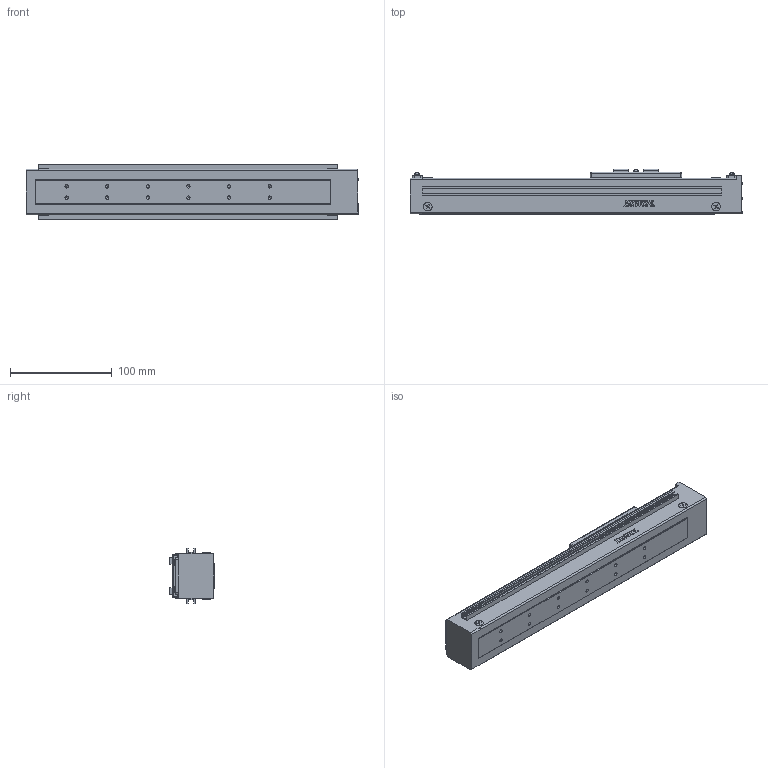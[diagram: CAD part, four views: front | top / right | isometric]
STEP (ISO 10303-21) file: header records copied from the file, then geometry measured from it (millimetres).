
FILE_DESCRIPTION(/* description */ (''),/* implementation_level */ '2;1');
FILE_NAME(/* name */ 'D:\混合母檔20191031\混和母檔\混和母檔\bin\Debug\Download\3D\KE405C-150AF0\KE405C-150AF0.stp',/* time_stamp */ '2019-11-04T13:35:57+08:00',/* author */ ('user'),/* organization */ (''),/* preprocessor_version */ 'ST-DEVELOPER v16.13',/* originating_system */ 'Autodesk Inventor 2018',/* authorisation */ '');
FILE_SCHEMA (('AUTOMOTIVE_DESIGN { 1 0 10303 214 3 1 1 }'));
Length unit declared in the file: millimetre
Products named in the file (3): KE405C-150AF0; KE40-F0-BP; KE40-SL
Assembly tree (2 placements, depth 2):
  KE405C-150AF0
    KE40-F0-BP
    KE40-SL
Bounding box: 327 x 45 x 55 mm (x, y, z)
Volume: 536762.6 mm3; surface area: 87520.2 mm2
Topology: 3 solids, 15 shells, 934 faces, 2520 edges, 1654 vertices
Faces by surface type: plane 471, cone 158, bspline 136, cylinder 97, torus 62, sphere 10
Full cylindrical faces by diameter (mm): 2.459 x6, 2.5 x2, 2.729 x6, 3 x6, 3.242 x12, 3.3 x4, 3.5 x6, 4 x4, 8.4 x8, 20 x1
Entity records: 34347 total; most frequent: CARTESIAN_POINT 12085, ORIENTED_EDGE 4746, DIRECTION 4236, EDGE_CURVE 2373, VERTEX_POINT 1609, AXIS2_PLACEMENT_3D 1435, LINE 1366, VECTOR 1366
